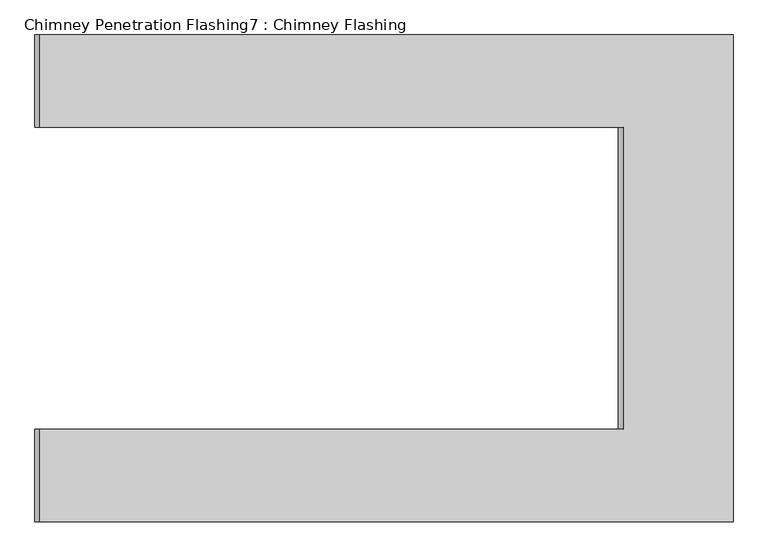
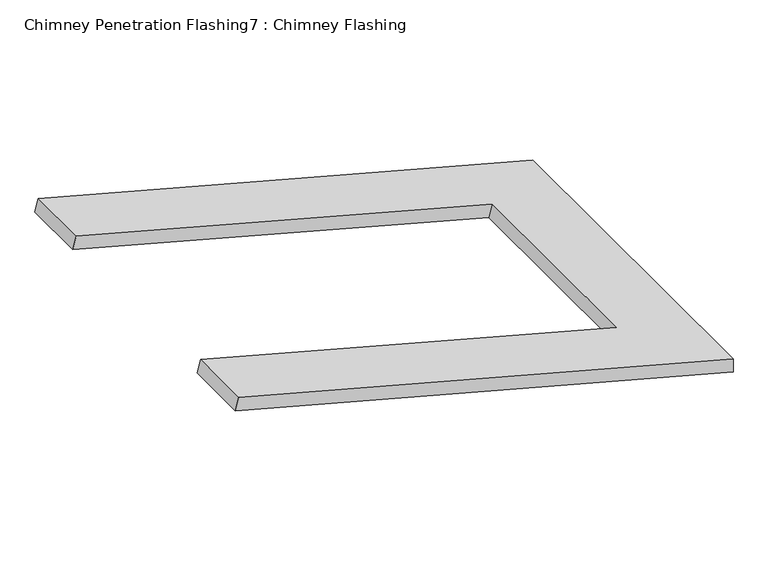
"""IFC4 building model written with IfcOpenShell, lengths in millimetres: proxy geometry, Chimney Penetration Flashing7 : Chimney Flashing."""

from ifc_helpers import new_model, si_unit, origin, place, context, project, spatial, faceted_brep, source, transform, mapped, element, save


def chimney_penetration_flashing7_chimney_flashing_15c1c62a(model_context):
    return source(origin(), model_context, "Body", "Brep", [
        faceted_brep([(-4702.105013, -34047.7298034, 6876.3272044), (-4702.105013, -34047.7298034, 6915.1260589), (-6079.6980206, -34047.7298034, 7284.2509927), (-6089.3882391, -34047.7298034, 7248.0486245), (-4702.105013, -33080.4029059, 6876.3272044), (-6089.3882391, -33080.4029059, 7248.0486245), (-6079.6980206, -33080.4029059, 7284.2509927), (-4702.105013, -33080.4029059, 6915.1260589), (-6079.6980206, -33264.0663546, 7284.2509927), (-4920.5870594, -33264.0663546, 6973.6681468), (-4920.5870594, -33864.0663546, 6973.6681468), (-6079.6980206, -33864.0663546, 7284.2509927), (-6089.3882391, -33864.0663546, 7248.0486245), (-6089.3882391, -33264.0663546, 7248.0486245), (-4930.286773, -33864.0663546, 6937.4683227), (-4930.286773, -33264.0663546, 6937.4683227)], [[[0, 1, 2, 3]], [[4, 5, 6, 7]], [[1, 0, 4, 7]], [[2, 1, 7, 6, 8, 9, 10, 11]], [[3, 2, 11, 12]], [[6, 5, 13, 8]], [[0, 3, 12, 14, 15, 13, 5, 4]], [[15, 9, 8, 13]], [[9, 15, 14, 10]], [[10, 14, 12, 11]]]),
    ])


if __name__ == "__main__":
    model = new_model("IFC4")
    model_context = context("Model", 3, world=origin())
    ifc_project = project(units=[si_unit("LENGTHUNIT", "METRE", prefix="MILLI")], contexts=[model_context])
    site = spatial("IfcSite", under=ifc_project)
    building = spatial("IfcBuilding", under=site)
    placement = place(None, origin())
    chimney_penetration_flashing7_chimney_flashing_shape = chimney_penetration_flashing7_chimney_flashing_15c1c62a(model_context)
    element("IfcBuildingElementProxy", 1, Name="Chimney Penetration Flashing7 : Chimney Flashing", ObjectType="Chimney Penetration Flashing7 : Chimney Flashing", at=placement, inside=building, context=model_context, shape_type="MappedRepresentation", body=[
        mapped(chimney_penetration_flashing7_chimney_flashing_shape, transform((0.0, 0.0, 0.0), x_axis=(1.0, 0.0, 0.0), y_axis=(0.0, 1.0, 0.0), z_axis=(0.0, 0.0, 1.0))),
    ])
    save(model, "model.ifc")
